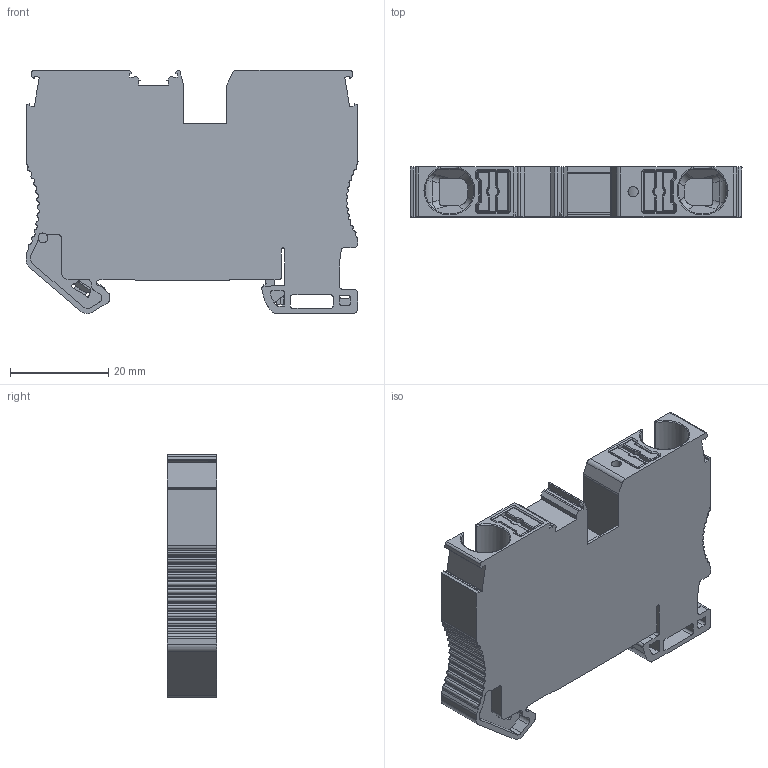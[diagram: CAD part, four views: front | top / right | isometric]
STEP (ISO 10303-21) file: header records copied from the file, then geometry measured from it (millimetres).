
FILE_DESCRIPTION((''),'2;1');
FILE_NAME('UPT-10PE_ASSY','2024-03-29T16:26:46',('Administrator'),(''),'CREO PARAMETRIC BY PTC INC, 2018050','CREO PARAMETRIC BY PTC INC, 2018050','');
FILE_SCHEMA(('CONFIG_CONTROL_DESIGN'));
Length unit declared in the file: millimetre
Products named in the file (1): UPT-10PE_ASSY
Bounding box: 67.7 x 10.15 x 49.6 mm (x, y, z)
Volume: 24371.6 mm3; surface area: 13307.6 mm2
Topology: 1 solids, 2 shells, 972 faces, 2784 edges, 1780 vertices
Faces by surface type: cylinder 456, plane 402, cone 36, sphere 34, torus 32, bspline 11, extrusion 1
Entity records: 32992 total; most frequent: CARTESIAN_POINT 7220, ORIENTED_EDGE 5500, DIRECTION 5489, EDGE_CURVE 2750, AXIS2_PLACEMENT_3D 1949, VERTEX_POINT 1780, VECTOR 1591, LINE 1590
